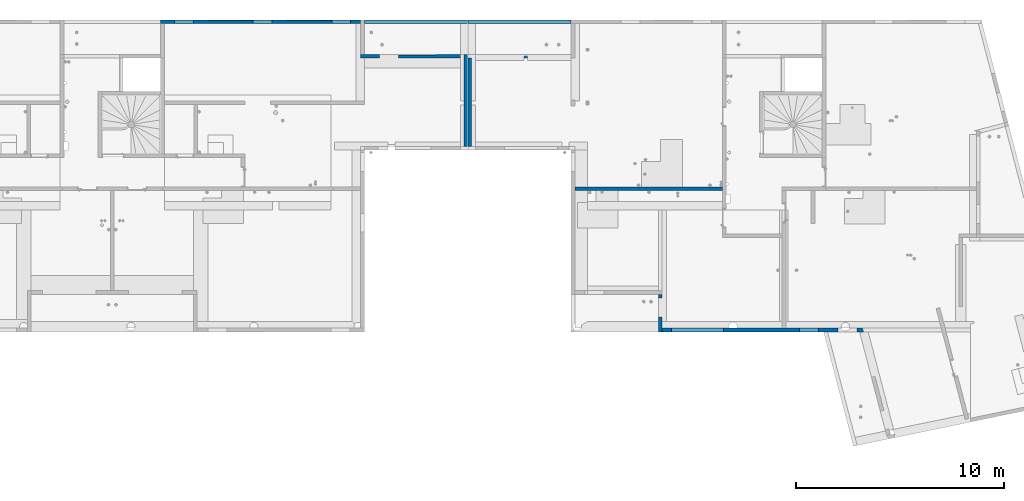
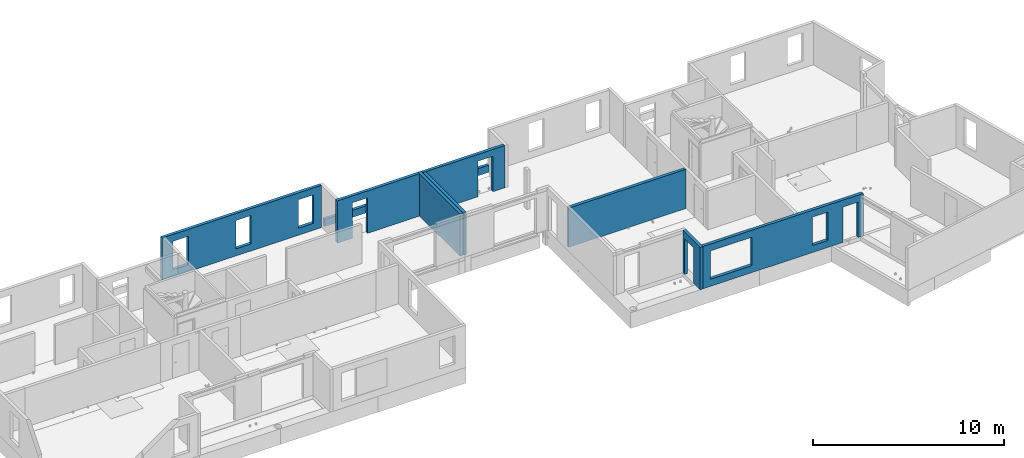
# One storey, part 13 of 34: 10 walls, 18 openings.
"""IFC2X3 building model written with IfcOpenShell, lengths in centimetres."""

from ifc_helpers import new_model, entity, si_unit, converted_unit, derived_unit, direction, frame, frame_2d, origin, origin_2d_with_axis, place, context, subcontext, project, spatial, polyline, rectangle, outline, extrude, material, layer, layer_set, layer_usage, type_object, element, save


model = new_model("IFC2X3")

# Units and contexts
model_context = context("Model", 3, precision=0.001, world=origin(), true_north=direction((6.12303176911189e-17, 1.0)))
body_context = subcontext(model_context, "Body", "Model", "MODEL_VIEW")
ifc_project = project(units=[si_unit("LENGTHUNIT", "METRE", prefix="CENTI"), si_unit("AREAUNIT", "SQUARE_METRE"), si_unit("VOLUMEUNIT", "CUBIC_METRE"), converted_unit("PLANEANGLEUNIT", "DEGREE", entity("IfcRatioMeasure", 0.0174532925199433), si_unit("PLANEANGLEUNIT", "RADIAN"), dimensions=[0, 0, 0, 0, 0, 0, 0]), si_unit("MASSUNIT", "GRAM", prefix="KILO"), derived_unit("MASSDENSITYUNIT", [(si_unit("MASSUNIT", "GRAM", prefix="KILO"), 1), (si_unit("LENGTHUNIT", "METRE"), -3)]), si_unit("TIMEUNIT", "SECOND"), si_unit("FREQUENCYUNIT", "HERTZ"), si_unit("THERMODYNAMICTEMPERATUREUNIT", "DEGREE_CELSIUS"), derived_unit("THERMALTRANSMITTANCEUNIT", [(si_unit("MASSUNIT", "GRAM", prefix="KILO"), 1), (si_unit("THERMODYNAMICTEMPERATUREUNIT", "KELVIN"), -1), (si_unit("TIMEUNIT", "SECOND"), -3)]), derived_unit("VOLUMETRICFLOWRATEUNIT", [(si_unit("LENGTHUNIT", "METRE"), 3), (si_unit("TIMEUNIT", "SECOND"), -1)]), si_unit("ELECTRICCURRENTUNIT", "AMPERE"), si_unit("ELECTRICVOLTAGEUNIT", "VOLT"), si_unit("POWERUNIT", "WATT"), si_unit("FORCEUNIT", "NEWTON"), si_unit("ILLUMINANCEUNIT", "LUX"), si_unit("LUMINOUSFLUXUNIT", "LUMEN"), si_unit("LUMINOUSINTENSITYUNIT", "CANDELA"), derived_unit("USERDEFINED", [(si_unit("MASSUNIT", "GRAM", prefix="KILO"), -1), (si_unit("LENGTHUNIT", "METRE"), -2), (si_unit("TIMEUNIT", "SECOND"), 3), (si_unit("LUMINOUSFLUXUNIT", "LUMEN"), 1)]), derived_unit("LINEARVELOCITYUNIT", [(si_unit("LENGTHUNIT", "METRE"), 1), (si_unit("TIMEUNIT", "SECOND"), -1)]), si_unit("PRESSUREUNIT", "PASCAL"), derived_unit("USERDEFINED", [(si_unit("LENGTHUNIT", "METRE"), -2), (si_unit("MASSUNIT", "GRAM", prefix="KILO"), 1), (si_unit("TIMEUNIT", "SECOND"), -2)])], contexts=[model_context])

# Site, building, storey
site_placement = place(None, origin())
site = spatial("IfcSite", under=ifc_project, at=site_placement, Name="Default", CompositionType="ELEMENT")
building_placement = place(site_placement, origin())
building = spatial("IfcBuilding", under=site, at=building_placement, Name="CAGE 03", CompositionType="ELEMENT")
storey_placement = place(building_placement, frame((0.0, 0.0, 340.0)))
storey = spatial("IfcBuildingStorey", under=building, at=storey_placement, Name="R+1", CompositionType="ELEMENT", Elevation=340.0)

# Wall, opening
ifc_material = material(Name="Béton, C25/30")
ifc_layer = layer(ifc_material, 18.0)
ifc_layer_set = layer_set([ifc_layer], Name="Mur de base:Voile BA 18")
ifc_layer_usage_1 = layer_usage(ifc_layer_set, "AXIS2", "NEGATIVE", 9.0)
wall_type = type_object("IfcWallType", Name="Mur de base:Voile BA 18", PredefinedType="STANDARD", material=ifc_layer_set)
wall_1_placement = place(storey_placement, frame((8789.36582014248, 5284.66066607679, 0.0)))
wall_1 = element("IfcWallStandardCase", 1, at=wall_1_placement, inside=storey, type_object=wall_type, material=ifc_layer_usage_1, Name="Mur de base:Voile BA 18", ObjectType="Mur de base:Voile BA 18", context=body_context, shape_type="SweptSolid", body=[
    extrude(rectangle(XDim=495.0, YDim=17.9999999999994, at=frame_2d((247.5, -8.17124146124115e-14), x_axis=(-1.0, 0.0))), origin(), (0.0, 0.0, 1.0), 45.0),
])
opening_1_placement = place(wall_1_placement, origin())
element("IfcOpeningElement", 2, at=opening_1_placement, cuts=wall_1, Name="Mur de base:Voile BA 18", ObjectType="Recess", context=body_context, shape_type="SweptSolid", body=[
    extrude(rectangle(XDim=181.0, YDim=184.0, at=origin_2d_with_axis()), frame((986.0, 7.0, 135.5), z_axis=(0.0, 1.0, 0.0), x_axis=(0.0, 0.0, -1.0)), (0.0, 0.0, 1.0), 1.99999999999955),
])

# Wall, openings
ifc_layer_usage_2 = layer_usage(ifc_layer_set, "AXIS2", "POSITIVE", -9.0)
wall_2_placement = place(storey_placement, frame((9712.36582014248, 3976.66066607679, 0.0), z_axis=(0.0, 0.0, 1.0), x_axis=(0.0, -1.0, 0.0)))
wall_2 = element("IfcWallStandardCase", 3, at=wall_2_placement, inside=storey, type_object=wall_type, material=ifc_layer_usage_2, Name="Mur de base:Voile BA 18", ObjectType="Mur de base:Voile BA 18", context=body_context, shape_type="SweptSolid", body=[
    extrude(rectangle(XDim=179.999999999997, YDim=17.9999999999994, at=frame_2d((89.9999999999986, -3.91686683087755e-13), x_axis=(-1.0, 0.0))), origin(), (0.0, 0.0, 1.0), 270.0),
])
opening_2_placement = place(wall_2_placement, origin())
element("IfcOpeningElement", 4, at=opening_2_placement, cuts=wall_2, Name="Mur de base:Voile BA 18", ObjectType="Opening", context=body_context, shape_type="SweptSolid", body=[
    extrude(rectangle(XDim=226.0, YDim=91.0000000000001, at=frame_2d((0.0, -5.6843418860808e-14), x_axis=(0.0, 1.0))), frame((64.5000000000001, -143.4, 383.0), z_axis=(0.0, 1.0, 0.0), x_axis=(-1.0, 0.0, 0.0)), (0.0, 0.0, 1.0), 304.8),
])
opening_3_placement = place(wall_2_placement, frame((3976.66066607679, -9712.36582014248, 0.0), z_axis=(0.0, 0.0, 1.0), x_axis=(0.0, 1.0, 0.0)))
element("IfcOpeningElement", 5, at=opening_3_placement, cuts=wall_2, Name="Mur de base:Voile BA 18", ObjectType="Opening", context=body_context, shape_type="SweptSolid", body=[
    extrude(rectangle(XDim=226.0, YDim=91.0000000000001, at=frame_2d((0.0, 0.0), x_axis=(0.0, 1.0))), frame((9568.96582014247, 3912.16066607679, 113.0), z_axis=(1.0, 0.0, 0.0), x_axis=(0.0, 1.0, 0.0)), (0.0, 0.0, 1.0), 304.8),
])

ifc_layer_usage_3 = layer_usage(ifc_layer_set, "AXIS2", "POSITIVE", -9.0)
wall_3_placement = place(storey_placement, frame((9721.36582014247, 3805.66066607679, 0.0)))
wall_3 = element("IfcWallStandardCase", 6, at=wall_3_placement, inside=storey, type_object=wall_type, material=ifc_layer_usage_3, Name="Mur de base:Voile BA 18", ObjectType="Mur de base:Voile BA 18", context=body_context, shape_type="SweptSolid", body=[
    extrude(outline(polyline([(0.0, -9.0), (844.0, -9.0), (935.0, -9.0), (948.259414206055, -9.0), (950.32649087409, -9.0), (966.863104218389, -9.0), (965.180291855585, -2.55624871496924), (962.162329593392, 9.0), (935.0, 9.0), (844.0, 9.0), (0.0, 9.0), (0.0, -9.0)])), origin(), (0.0, 0.0, 1.0), 270.0),
])
opening_4_placement = place(wall_3_placement, origin())
element("IfcOpeningElement", 7, at=opening_4_placement, cuts=wall_3, Name="Mur de base:Voile BA 18", ObjectType="Opening", context=body_context, shape_type="SweptSolid", body=[
    extrude(rectangle(XDim=226.0, YDim=90.9999999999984, at=frame_2d((8.66862137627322e-13, -5.6843418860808e-14), x_axis=(0.0, 1.0))), frame((889.500000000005, -161.400000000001, 383.0), z_axis=(0.0, 1.0, 0.0), x_axis=(-1.0, 0.0, 0.0)), (0.0, 0.0, 1.0), 304.8),
])
opening_5_placement = place(wall_3_placement, frame((-9721.36582014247, -3805.66066607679, 0.0)))
element("IfcOpeningElement", 8, at=opening_5_placement, cuts=wall_3, Name="Mur de base:Voile BA 18", ObjectType="Opening", context=body_context, shape_type="SweptSolid", body=[
    extrude(rectangle(XDim=226.0, YDim=90.9999999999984, at=frame_2d((8.66862137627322e-13, 0.0), x_axis=(0.0, 1.0))), frame((10610.8658201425, 3644.26066607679, 113.0), z_axis=(0.0, 1.0, 0.0), x_axis=(-1.0, 0.0, 0.0)), (0.0, 0.0, 1.0), 304.8),
])
opening_6_placement = place(wall_3_placement, frame((-9721.36582014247, -3805.66066607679, 0.0)))
element("IfcOpeningElement", 9, at=opening_6_placement, cuts=wall_3, Name="Mur de base:Voile BA 18", ObjectType="Opening", context=body_context, shape_type="SweptSolid", body=[
    extrude(rectangle(XDim=181.0, YDim=90.9999999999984, at=frame_2d((-8.66862137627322e-13, 0.0), x_axis=(0.0, 1.0))), frame((10427.8658201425, 3644.26066607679, 135.5), z_axis=(0.0, 1.0, 0.0), x_axis=(-1.0, 0.0, 0.0)), (0.0, 0.0, 1.0), 304.799999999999),
])
opening_7_placement = place(wall_3_placement, frame((-9721.36582014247, -3805.66066607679, 0.0)))
element("IfcOpeningElement", 10, at=opening_7_placement, cuts=wall_3, Name="Mur de base:Voile BA 18", ObjectType="Opening", context=body_context, shape_type="SweptSolid", body=[
    extrude(rectangle(XDim=181.0, YDim=251.0, at=frame_2d((8.66862137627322e-13, 0.0), x_axis=(0.0, 1.0))), frame((9891.86582014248, 3644.26066607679, 135.5), z_axis=(0.0, 1.0, 0.0), x_axis=(-1.0, 0.0, 0.0)), (0.0, 0.0, 1.0), 304.8),
])

ifc_layer_usage_4 = layer_usage(ifc_layer_set, "AXIS2", "POSITIVE", -9.0)
wall_4_placement = place(storey_placement, frame((9284.36582014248, 5119.66066607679, 0.0), z_axis=(0.0, 0.0, 1.0), x_axis=(-1.0, 0.0, 0.0)))
wall_4 = element("IfcWallStandardCase", 11, at=wall_4_placement, inside=storey, type_object=wall_type, material=ifc_layer_usage_4, Name="Mur de base:Voile BA 18", ObjectType="Mur de base:Voile BA 18", context=body_context, shape_type="SweptSolid", body=[
    extrude(rectangle(XDim=495.000000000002, YDim=17.9999999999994, at=frame_2d((247.500000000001, -3.28626015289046e-14), x_axis=(-1.0, 0.0))), origin(), (0.0, 0.0, 1.0), 270.0),
])
opening_8_placement = place(wall_4_placement, origin())
element("IfcOpeningElement", 12, at=opening_8_placement, cuts=wall_4, Name="Mur de base:Voile BA 18", ObjectType="Recess", context=body_context, shape_type="SweptSolid", body=[
    extrude(rectangle(XDim=226.0, YDim=184.0, at=frame_2d((0.0, -4.9737991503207e-14), x_axis=(0.0, 1.0))), frame((255.0, -9.0, 113.0), z_axis=(0.0, 1.0, 0.0), x_axis=(1.0, 0.0, 0.0)), (0.0, 0.0, 1.0), 1.99999999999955),
])
opening_9_placement = place(wall_4_placement, frame((9284.36582014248, 5119.66066607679, 0.0), z_axis=(0.0, 0.0, 1.0), x_axis=(-1.0, 0.0, 0.0)))
element("IfcOpeningElement", 13, at=opening_9_placement, cuts=wall_4, Name="Mur de base:Voile BA 18", ObjectType="Opening", context=body_context, shape_type="SweptSolid", body=[
    extrude(rectangle(XDim=226.0, YDim=91.0000000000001, at=frame_2d((0.0, 0.0), x_axis=(0.0, 1.0))), frame((9166.86582014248, 5263.06066607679, 113.0), z_axis=(0.0, -1.0, 0.0), x_axis=(1.0, 0.0, 0.0)), (0.0, 0.0, 1.0), 304.8),
])

ifc_layer_usage_5 = layer_usage(ifc_layer_set, "AXIS2", "POSITIVE", -9.0)
wall_5_placement = place(storey_placement, frame((8274.36582014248, 5284.6606660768, 0.0), z_axis=(0.0, 0.0, 1.0), x_axis=(-1.0, 0.0, 0.0)))
wall_5 = element("IfcWallStandardCase", 14, at=wall_5_placement, inside=storey, type_object=wall_type, material=ifc_layer_usage_5, Name="Mur de base:Voile BA 18", ObjectType="Mur de base:Voile BA 18", context=body_context, shape_type="SweptSolid", body=[
    extrude(rectangle(XDim=960.999999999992, YDim=17.9999999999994, at=frame_2d((480.499999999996, -2.44249065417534e-13), x_axis=(-1.0, 0.0))), origin(), (0.0, 0.0, 1.0), 270.0),
])
opening_10_placement = place(wall_5_placement, origin())
element("IfcOpeningElement", 15, at=opening_10_placement, cuts=wall_5, Name="Mur de base:Voile BA 18", ObjectType="Recess", context=body_context, shape_type="SweptSolid", body=[
    extrude(rectangle(XDim=181.0, YDim=218.0, at=frame_2d((4.33431068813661e-13, 0.0), x_axis=(0.0, 1.0))), frame((626.0, -9.0, 135.5), z_axis=(0.0, 1.0, 0.0), x_axis=(1.0, 0.0, 0.0)), (0.0, 0.0, 1.0), 1.99999999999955),
])
opening_11_placement = place(wall_5_placement, origin())
element("IfcOpeningElement", 16, at=opening_11_placement, cuts=wall_5, Name="Mur de base:Voile BA 18", ObjectType="Recess", context=body_context, shape_type="SweptSolid", body=[
    extrude(rectangle(XDim=181.0, YDim=218.000000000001, at=frame_2d((8.66862137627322e-13, 0.0), x_axis=(0.0, 1.0))), frame((248.0, -9.0, 135.499999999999), z_axis=(0.0, 1.0, 0.0), x_axis=(1.0, 0.0, 0.0)), (0.0, 0.0, 1.0), 1.99999999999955),
])
opening_12_placement = place(wall_5_placement, frame((8274.36582014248, 5284.6606660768, 0.0), z_axis=(0.0, 0.0, 1.0), x_axis=(-1.0, 0.0, 0.0)))
element("IfcOpeningElement", 17, at=opening_12_placement, cuts=wall_5, Name="Mur de base:Voile BA 18", ObjectType="Opening", context=body_context, shape_type="SweptSolid", body=[
    extrude(rectangle(XDim=181.0, YDim=91.0000000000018, at=frame_2d((0.0, 0.0), x_axis=(0.0, 1.0))), frame((7802.86582014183, 5428.0606660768, 135.5), z_axis=(0.0, -1.0, 0.0), x_axis=(1.0, 0.0, 0.0)), (0.0, 0.0, 1.0), 304.8),
])
opening_13_placement = place(wall_5_placement, frame((8274.36582014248, 5284.6606660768, 0.0), z_axis=(0.0, 0.0, 1.0), x_axis=(-1.0, 0.0, 0.0)))
element("IfcOpeningElement", 18, at=opening_13_placement, cuts=wall_5, Name="Mur de base:Voile BA 18", ObjectType="Opening", context=body_context, shape_type="SweptSolid", body=[
    extrude(rectangle(XDim=181.0, YDim=90.9999999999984, at=frame_2d((8.66862137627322e-13, 0.0), x_axis=(0.0, 1.0))), frame((8180.86582014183, 5428.0606660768, 135.5), z_axis=(0.0, -1.0, 0.0), x_axis=(1.0, 0.0, 0.0)), (0.0, 0.0, 1.0), 304.8),
])
opening_14_placement = place(wall_5_placement, frame((8274.36582014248, 5284.6606660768, 0.0), z_axis=(0.0, 0.0, 1.0), x_axis=(-1.0, 0.0, 0.0)))
element("IfcOpeningElement", 19, at=opening_14_placement, cuts=wall_5, Name="Mur de base:Voile BA 18", ObjectType="Opening", context=body_context, shape_type="SweptSolid", body=[
    extrude(rectangle(XDim=181.0, YDim=91.0000000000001, at=frame_2d((0.0, 0.0), x_axis=(0.0, 1.0))), frame((7424.86582014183, 5428.0606660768, 135.5), z_axis=(0.0, -1.0, 0.0), x_axis=(1.0, 0.0, 0.0)), (0.0, 0.0, 1.0), 304.8),
])

# Walls
ifc_layer_usage_6 = layer_usage(ifc_layer_set, "AXIS2", "NEGATIVE", 9.0)
wall_6_placement = place(storey_placement, frame((8778.36582014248, 5128.6606660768, 0.0), z_axis=(0.0, 0.0, 1.0), x_axis=(0.0, -1.0, 0.0)))
element("IfcWallStandardCase", 20, at=wall_6_placement, inside=storey, type_object=wall_type, material=ifc_layer_usage_6, Name="Mur de base:Voile BA 18", ObjectType="Mur de base:Voile BA 18", context=body_context, shape_type="SweptSolid", body=[
    extrude(rectangle(XDim=441.999999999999, YDim=17.9999999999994, at=frame_2d((221.0, 4.64517313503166e-13), x_axis=(-1.0, 0.0))), origin(), (0.0, 0.0, 1.0), 270.0),
])
ifc_layer_usage_7 = layer_usage(ifc_layer_set, "AXIS2", "POSITIVE", -9.0)
wall_7_placement = place(storey_placement, frame((8798.36582014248, 5110.6606660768, 0.0), z_axis=(0.0, 0.0, 1.0), x_axis=(0.0, -1.0, 0.0)))
element("IfcWallStandardCase", 21, at=wall_7_placement, inside=storey, type_object=wall_type, material=ifc_layer_usage_7, Name="Mur de base:Voile BA 18", ObjectType="Mur de base:Voile BA 18", context=body_context, shape_type="SweptSolid", body=[
    extrude(rectangle(XDim=424.000000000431, YDim=17.9999999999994, at=frame_2d((212.000000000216, 4.41424674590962e-13), x_axis=(-1.0, 0.0))), origin(), (0.0, 0.0, 1.0), 270.0),
])
ifc_layer_usage_8 = layer_usage(ifc_layer_set, "AXIS2", "NEGATIVE", 9.0)
wall_8_placement = place(storey_placement, frame((9302.36582014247, 4483.66066607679, 0.0)))
element("IfcWallStandardCase", 22, at=wall_8_placement, inside=storey, type_object=wall_type, material=ifc_layer_usage_8, Name="Mur de base:Voile BA 18", ObjectType="Mur de base:Voile BA 18", context=body_context, shape_type="SweptSolid", body=[
    extrude(rectangle(XDim=708.000000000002, YDim=17.9999999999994, at=frame_2d((354.000000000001, 2.1405099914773e-13), x_axis=(-1.0, 0.0))), origin(), (0.0, 0.0, 1.0), 250.0),
])

# Wall, openings
ifc_layer_usage_9 = layer_usage(ifc_layer_set, "AXIS2", "POSITIVE", -9.0)
wall_9_placement = place(storey_placement, frame((8769.36582014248, 5119.6606660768, 0.0), z_axis=(0.0, 0.0, 1.0), x_axis=(-1.0, 0.0, 0.0)))
wall_9 = element("IfcWallStandardCase", 23, at=wall_9_placement, inside=storey, type_object=wall_type, material=ifc_layer_usage_9, Name="Mur de base:Voile BA 18", ObjectType="Mur de base:Voile BA 18", context=body_context, shape_type="SweptSolid", body=[
    extrude(rectangle(XDim=495.000000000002, YDim=17.9999999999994, at=frame_2d((247.500000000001, -2.75335310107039e-14), x_axis=(-1.0, 0.0))), origin(), (0.0, 0.0, 1.0), 270.0),
])
opening_15_placement = place(wall_9_placement, origin())
element("IfcOpeningElement", 24, at=opening_15_placement, cuts=wall_9, Name="Mur de base:Voile BA 18", ObjectType="Recess", context=body_context, shape_type="SweptSolid", body=[
    extrude(rectangle(XDim=226.0, YDim=184.0, at=frame_2d((0.0, -4.9737991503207e-14), x_axis=(0.0, 1.0))), frame((222.0, -9.0, 113.0), z_axis=(0.0, 1.0, 0.0), x_axis=(1.0, 0.0, 0.0)), (0.0, 0.0, 1.0), 1.99999999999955),
])
opening_16_placement = place(wall_9_placement, frame((8769.36582014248, 5119.6606660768, 0.0), z_axis=(0.0, 0.0, 1.0), x_axis=(-1.0, 0.0, 0.0)))
element("IfcOpeningElement", 25, at=opening_16_placement, cuts=wall_9, Name="Mur de base:Voile BA 18", ObjectType="Opening", context=body_context, shape_type="SweptSolid", body=[
    extrude(rectangle(XDim=226.0, YDim=91.0000000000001, at=frame_2d((0.0, 0.0), x_axis=(0.0, 1.0))), frame((8409.86582014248, 5263.0606660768, 113.0), z_axis=(0.0, -1.0, 0.0), x_axis=(1.0, 0.0, 0.0)), (0.0, 0.0, 1.0), 304.8),
])

ifc_layer_usage_10 = layer_usage(ifc_layer_set, "AXIS2", "NEGATIVE", 9.0)
wall_10_placement = place(storey_placement, frame((8292.36582014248, 5284.6606660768, 0.0)))
wall_10 = element("IfcWallStandardCase", 26, at=wall_10_placement, inside=storey, type_object=wall_type, material=ifc_layer_usage_10, Name="Mur de base:Voile BA 18", ObjectType="Mur de base:Voile BA 18", context=body_context, shape_type="SweptSolid", body=[
    extrude(rectangle(XDim=495.000000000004, YDim=17.9999999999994, at=frame_2d((247.500000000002, -6.21724893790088e-14), x_axis=(-1.0, 0.0))), origin(), (0.0, 0.0, 1.0), 45.0),
])
opening_17_placement = place(wall_10_placement, origin())
element("IfcOpeningElement", 27, at=opening_17_placement, cuts=wall_10, Name="Mur de base:Voile BA 18", ObjectType="Recess", context=body_context, shape_type="SweptSolid", body=[
    extrude(rectangle(XDim=181.0, YDim=218.0, at=frame_2d((0.0, 4.33431068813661e-13), x_axis=(1.0, 0.0))), frame((-644.0, 7.0, 135.5), z_axis=(0.0, 1.0, 0.0), x_axis=(0.0, 0.0, -1.0)), (0.0, 0.0, 1.0), 1.99999999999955),
])
opening_18_placement = place(wall_10_placement, origin())
element("IfcOpeningElement", 28, at=opening_18_placement, cuts=wall_10, Name="Mur de base:Voile BA 18", ObjectType="Recess", context=body_context, shape_type="SweptSolid", body=[
    extrude(rectangle(XDim=181.0, YDim=218.000000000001, at=frame_2d((0.0, -8.66862137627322e-13), x_axis=(1.0, 0.0))), frame((-266.0, 7.0, 135.499999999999), z_axis=(0.0, 1.0, 0.0), x_axis=(0.0, 0.0, -1.0)), (0.0, 0.0, 1.0), 1.99999999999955),
])

save(model, "model.ifc")
